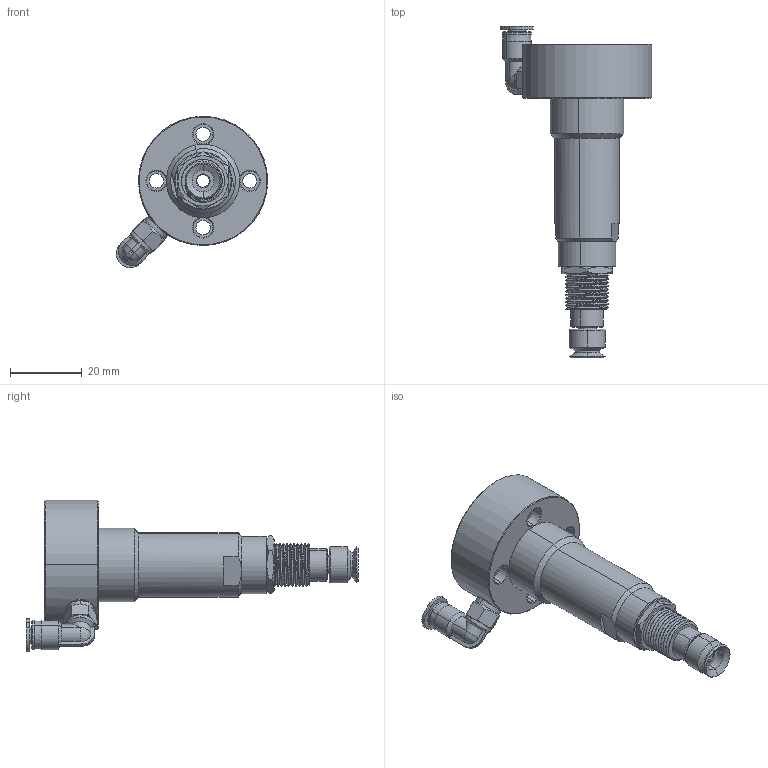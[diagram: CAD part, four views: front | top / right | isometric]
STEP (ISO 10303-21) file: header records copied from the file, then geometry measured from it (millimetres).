
FILE_DESCRIPTION (( 'STEP AP214' ), '1' );
FILE_NAME ('Solo testina aspirazione Pluto 010121.STEP', '2017-09-18T12:04:47', ( '' ), ( '' ), 'SwSTEP 2.0', 'SolidWorks 2017', '' );
FILE_SCHEMA (( 'AUTOMOTIVE_DESIGN' ));
Length unit declared in the file: millimetre
Products named in the file (1): Solo testina aspirazione Pluto 010121
Bounding box: 42.18 x 92.5 x 42.18 mm (x, y, z)
Volume: 19659.7 mm3; surface area: 16169.8 mm2
Topology: 6 solids, 7 shells, 334 faces, 806 edges, 505 vertices
Faces by surface type: cylinder 166, cone 85, plane 65, bspline 18
Entity records: 21061 total; most frequent: CARTESIAN_POINT 10013, ORIENTED_EDGE 1608, DIRECTION 1449, EDGE_CURVE 804, AXIS2_PLACEMENT_3D 586, VERTEX_POINT 505, EDGE_LOOP 377, UNCERTAINTY_MEASURE_WITH_UNIT 342
